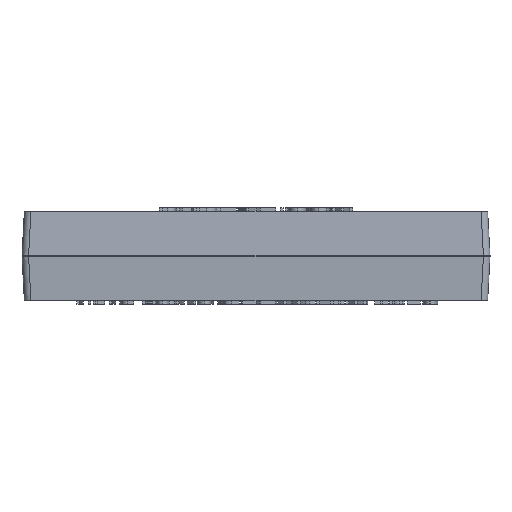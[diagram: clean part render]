
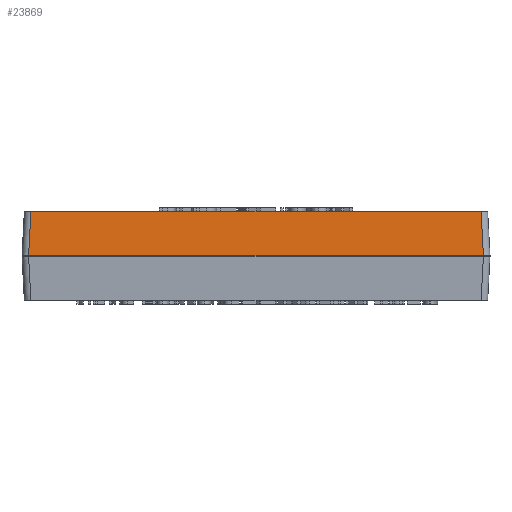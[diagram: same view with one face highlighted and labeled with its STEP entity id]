
A CAD part, front view. The second image highlights one B-rep face of the part: STEP entity #23869.
In plain terms, the highlighted planar face has unit normal (0, -0.999, 0.052).
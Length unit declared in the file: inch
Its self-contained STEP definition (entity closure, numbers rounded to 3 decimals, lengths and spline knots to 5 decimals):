
#738 = DIRECTION ( 'NONE',  ( -0.052, -0.052, -0.997 ) ) ;
#1105 = CARTESIAN_POINT ( 'NONE',  ( 1.01944, -0.7369, 0.20313 ) ) ;
#1314 = LINE ( 'NONE', #22667, #22603 ) ;
#1871 = VERTEX_POINT ( 'NONE', #1105 ) ;
#3121 = LINE ( 'NONE', #13251, #32246 ) ;
#3612 = CARTESIAN_POINT ( 'NONE',  ( -1.03, -0.74746, 0.00157 ) ) ;
#4618 = VECTOR ( 'NONE', #26462, 39.37008 ) ;
#6866 = DIRECTION ( 'NONE',  ( -1., 0., 0. ) ) ;
#6953 = CARTESIAN_POINT ( 'NONE',  ( -1.01944, -0.7369, 0.20313 ) ) ;
#7064 = CARTESIAN_POINT ( 'NONE',  ( -1.01665, -0.73411, 0.25626 ) ) ;
#8678 = VERTEX_POINT ( 'NONE', #6953 ) ;
#9916 = VERTEX_POINT ( 'NONE', #3612 ) ;
#11199 = EDGE_CURVE ( 'NONE', #9916, #33521, #1314, .T. ) ;
#13251 = CARTESIAN_POINT ( 'NONE',  ( 0., -0.7369, 0.20313 ) ) ;
#13920 = VECTOR ( 'NONE', #738, 39.37008 ) ;
#14216 = CARTESIAN_POINT ( 'NONE',  ( 1.03, -0.74746, 0.00157 ) ) ;
#15658 = CARTESIAN_POINT ( 'NONE',  ( 0., -0.7369, 0.20313 ) ) ;
#19584 = AXIS2_PLACEMENT_3D ( 'NONE', #15658, #27434, #6866 ) ;
#22603 = VECTOR ( 'NONE', #31594, 39.37008 ) ;
#22667 = CARTESIAN_POINT ( 'NONE',  ( 1.06004, -0.74746, 0.00157 ) ) ;
#23869 = ADVANCED_FACE ( 'NONE', ( #26799 ), #30522, .F. ) ;
#24610 = LINE ( 'NONE', #7064, #13920 ) ;
#25914 = ORIENTED_EDGE ( 'NONE', *, *, #30679, .T. ) ;
#26354 = ORIENTED_EDGE ( 'NONE', *, *, #28600, .T. ) ;
#26435 = EDGE_CURVE ( 'NONE', #8678, #1871, #3121, .T. ) ;
#26462 = DIRECTION ( 'NONE',  ( -0.052, 0.052, 0.997 ) ) ;
#26766 = ORIENTED_EDGE ( 'NONE', *, *, #11199, .T. ) ;
#26799 = FACE_OUTER_BOUND ( 'NONE', #33271, .T. ) ;
#27152 = ORIENTED_EDGE ( 'NONE', *, *, #26435, .F. ) ;
#27434 = DIRECTION ( 'NONE',  ( 0., 0.999, -0.052 ) ) ;
#28600 = EDGE_CURVE ( 'NONE', #8678, #9916, #24610, .T. ) ;
#29561 = CARTESIAN_POINT ( 'NONE',  ( 1.01665, -0.73411, 0.25626 ) ) ;
#30522 = PLANE ( 'NONE',  #19584 ) ;
#30679 = EDGE_CURVE ( 'NONE', #33521, #1871, #33780, .T. ) ;
#31594 = DIRECTION ( 'NONE',  ( 1., 0., 0. ) ) ;
#32246 = VECTOR ( 'NONE', #36891, 39.37008 ) ;
#33271 = EDGE_LOOP ( 'NONE', ( #27152, #26354, #26766, #25914 ) ) ;
#33521 = VERTEX_POINT ( 'NONE', #14216 ) ;
#33780 = LINE ( 'NONE', #29561, #4618 ) ;
#36891 = DIRECTION ( 'NONE',  ( 1., 0., 0. ) ) ;
